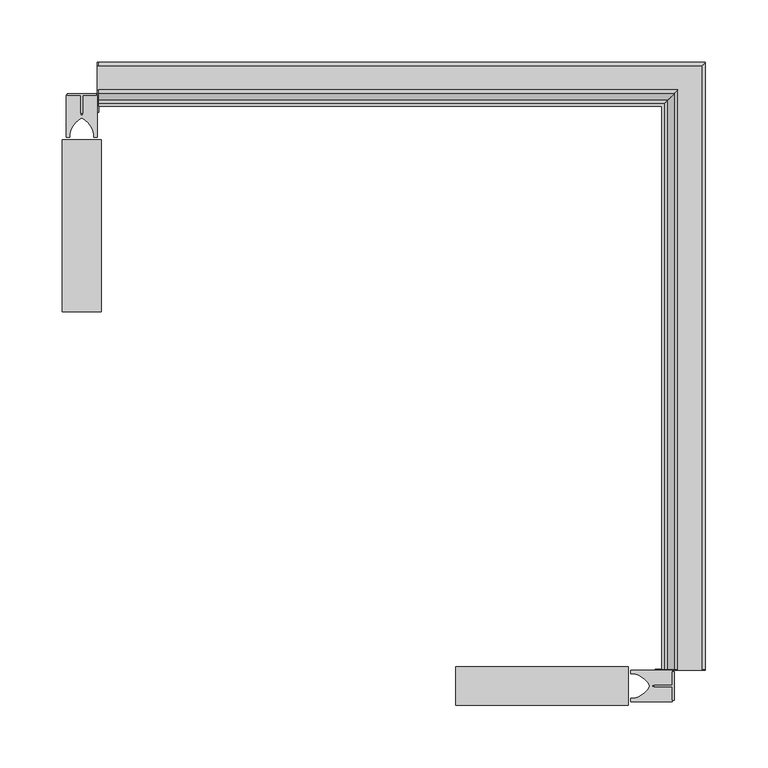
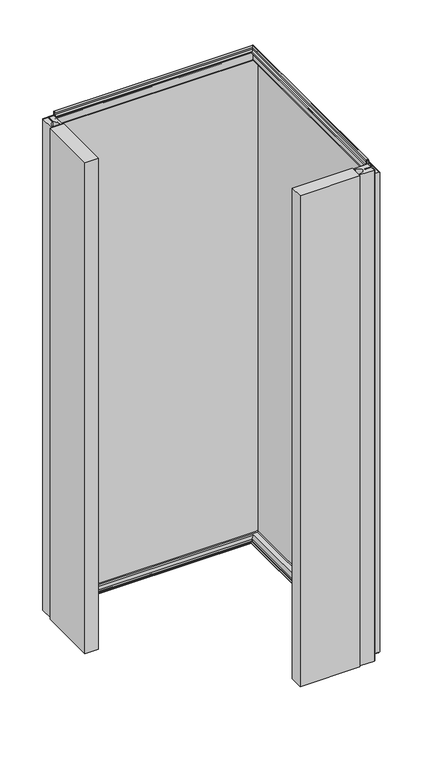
"""IFC4 building model written with IfcOpenShell, lengths in millimetres: plate geometry, Угловой модуль Fronttop : Угловой модуль Fronttop 200/1200."""

from ifc_helpers import new_model, si_unit, point, frame, frame_2d, origin, origin_with_axes, place, context, project, spatial, polyline, circle_curve, ellipse_curve, trimmed, segment, composite_curve, outline, extrude, source, transform, mapped, element, save
from ifc_brep_helpers import plane_surface, cylinder_surface, revolved_surface, advanced_brep


def plate_09dc59af(model_context):
    return source(origin(), model_context, "Body", "SolidModel", [
        extrude(outline(polyline([(225.0, -288.4948846), (225.0, -311.5051154), (223.5, -311.5051154), (223.5, -300.6502496), (209.0759655, -300.6502496), (209.0759655, -299.35), (223.5, -299.35), (223.5, -288.4948846), (225.0, -288.4948846)])), origin_with_axes(), (0.0, 0.0, 1.0), 1200.0),
        extrude(outline(composite_curve([segment(polyline([(223.5, -287.4998455), (223.5, -299.25), (207.5, -299.25), (207.5, -300.75), (223.5, -300.75), (223.5, -312.5001545), (190.0, -312.5001545), (190.0, -309.75), (192.5, -309.75)]), True, "CONTINUOUS"), segment(trimmed(circle_curve(frame_2d((189.3183984, -291.9661979)), 18.0661619), [point((192.5, -309.75))], [point((205.5, -300.0))], True, "CARTESIAN"), True, "CONTINUOUS"), segment(trimmed(circle_curve(frame_2d((189.3183984, -308.0338021)), 18.0661619), [point((205.5, -300.0))], [point((192.5, -290.25))], True, "CARTESIAN"), True, "CONTINUOUS"), segment(polyline([(192.5, -290.25), (190.0, -290.25), (190.0, -287.4998455), (223.5, -287.4998455)]), True, "CONTINUOUS")], self_intersect=False)), origin_with_axes(), (0.0, 0.0, 1.0), 1200.0),
        extrude(outline(polyline([(50.0, -315.5), (50.0, -284.5), (188.0, -284.5), (188.0, -315.5), (50.0, -315.5)])), origin_with_axes(), (0.0, 0.0, 1.0), 1200.0),
        extrude(outline(polyline([(-261.5051154, 175.0), (-238.4948846, 175.0), (-238.4948846, 173.5), (-249.3497504, 173.5), (-249.3497504, 159.0759655), (-250.65, 159.0759655), (-250.65, 173.5), (-261.5051154, 173.5), (-261.5051154, 175.0)])), origin_with_axes(), (0.0, 0.0, 1.0), 1200.0),
        extrude(outline(composite_curve([segment(polyline([(-262.5001545, 173.5), (-250.75, 173.5), (-250.75, 157.5), (-249.25, 157.5), (-249.25, 173.5), (-237.4998455, 173.5), (-237.4998455, 140.0), (-240.25, 140.0), (-240.25, 142.5)]), True, "CONTINUOUS"), segment(trimmed(circle_curve(frame_2d((-258.0338021, 139.3183984)), 18.0661619), [point((-240.25, 142.5))], [point((-250.0, 155.5))], True, "CARTESIAN"), True, "CONTINUOUS"), segment(trimmed(circle_curve(frame_2d((-241.9661979, 139.3183984)), 18.0661619), [point((-250.0, 155.5))], [point((-259.75, 142.5))], True, "CARTESIAN"), True, "CONTINUOUS"), segment(polyline([(-259.75, 142.5), (-259.75, 140.0), (-262.5001545, 140.0), (-262.5001545, 173.5)]), True, "CONTINUOUS")], self_intersect=False)), origin_with_axes(), (0.0, 0.0, 1.0), 1200.0),
        extrude(outline(polyline([(-234.5, 0.0), (-265.5, 0.0), (-265.5, 138.0), (-234.5, 138.0), (-234.5, 0.0)])), origin_with_axes(), (0.0, 0.0, 1.0), 1200.0),
        advanced_brep(
        [(-236.5, 174.0, 1208.0), (-236.5, 171.0, 1208.0), (-236.5, 171.0, 1204.0), (-236.5, 167.0, 1200.0), (-236.5, 165.0, 1200.0), (-236.5, 165.0, 1201.0), (-236.5, 167.0, 1201.0), (-236.5, 170.0, 1204.0), (-236.5, 170.0, 1208.0), (-236.5, 175.0, 1208.0), (-236.5, 175.0, 1200.0), (-236.5, 174.0, 1200.0), (-236.5, 165.0, 2.0), (215.0, 165.0, 2.0), (215.0, 165.0, 3.0), (-236.5, 165.0, 3.0), (215.0, -286.5, 3.0), (217.0, -286.5, 3.0), (217.0, 167.0, 3.0), (-236.5, 167.0, 3.0), (218.0, 168.0, 4.0), (-236.5, 168.0, 4.0), (218.0, 168.0, 8.0), (-236.5, 168.0, 8.0), (227.0, 177.0, 8.0), (-236.5, 177.0, 8.0), (227.0, 177.0, 0.0), (-236.5, 177.0, 0.0), (229.0, 179.0, -2.0), (-236.5, 179.0, -2.0), (229.0, -286.5, -2.0), (247.0, -286.5, -2.0), (247.0, 197.0, -2.0), (-236.5, 197.0, -2.0), (249.0, 199.0, 0.0), (-236.5, 199.0, 0.0), (249.0, 199.0, 1169.0), (-236.5, 199.0, 1169.0), (247.0, 197.0, 1171.0), (-236.5, 197.0, 1171.0), (247.0, -286.5, 1171.0), (228.0, -286.5, 1171.0), (228.0, 178.0, 1171.0), (-236.5, 178.0, 1171.0), (224.0, 174.0, 1175.0), (-236.5, 174.0, 1175.0), (224.0, 174.0, 1208.0), (221.0, 171.0, 1208.0), (221.0, 171.0, 1204.0), (217.0, 167.0, 1200.0), (217.0, -286.5, 1200.0), (215.0, -286.5, 1200.0), (215.0, 165.0, 1200.0), (215.0, 165.0, 1201.0), (215.0, -286.5, 1201.0), (217.0, -286.5, 1201.0), (217.0, 167.0, 1201.0), (220.0, 170.0, 1204.0), (220.0, 170.0, 1208.0), (225.0, 175.0, 1208.0), (225.0, 175.0, 1175.0), (-236.5, 175.0, 1175.0), (-237.5, 175.0, 1175.0), (-237.5, 175.0, 1200.0), (228.0, 178.0, 1172.0), (-236.5, 178.0, 1172.0), (228.0, -286.5, 1172.0), (228.0, -287.5, 1172.0), (247.0, -287.5, 1172.0), (247.0, -286.5, 1172.0), (247.0, 197.0, 1172.0), (-236.5, 197.0, 1172.0), (-237.5, 197.0, 1172.0), (-237.5, 178.0, 1172.0), (250.0, 200.0, 1169.0), (-236.5, 200.0, 1169.0), (250.0, 200.0, 0.0), (-236.5, 200.0, 0.0), (-237.5, 200.0, 0.0), (-237.5, 200.0, 1169.0), (247.0, 197.0, -3.0), (-236.5, 197.0, -3.0), (247.0, -286.5, -3.0), (247.0, -287.5, -3.0), (225.0, -287.5, -3.0), (225.0, -286.5, -3.0), (229.0, -286.5, -3.0), (229.0, 179.0, -3.0), (-236.5, 179.0, -3.0), (-236.5, 175.0, -3.0), (-237.5, 175.0, -3.0), (-237.5, 197.0, -3.0), (226.0, 176.0, 0.0), (-236.5, 176.0, 0.0), (226.0, 176.0, 8.0), (-236.5, 176.0, 8.0), (219.0, 169.0, 8.0), (-236.5, 169.0, 8.0), (219.0, 169.0, 4.0), (-236.5, 169.0, 4.0), (217.0, 167.0, 2.0), (-236.5, 167.0, 2.0), (217.0, -286.5, 2.0), (215.0, -286.5, 2.0), (221.0, -286.5, 1204.0), (221.0, -286.5, 1208.0), (224.0, -286.5, 1208.0), (224.0, -286.5, 1200.0), (225.0, -286.5, 1200.0), (225.0, -286.5, 1208.0), (220.0, -286.5, 1208.0), (220.0, -286.5, 1204.0), (218.0, -286.5, 4.0), (218.0, -286.5, 8.0), (227.0, -286.5, 8.0), (227.0, -286.5, 0.0), (249.0, -286.5, 0.0), (249.0, -286.5, 1169.0), (224.0, -286.5, 1175.0), (225.0, -287.5, 1200.0), (225.0, -287.5, 1175.0), (225.0, -286.5, 1175.0), (250.0, -286.5, 1169.0), (250.0, -287.5, 1169.0), (250.0, -287.5, 0.0), (250.0, -286.5, 0.0), (226.0, -286.5, 0.0), (226.0, -286.5, 8.0), (219.0, -286.5, 8.0), (219.0, -286.5, 4.0), (-236.5, 160.0, 1200.0), (-236.5, 160.0, 0.0), (-236.5, 175.0, 0.0), (-237.5, 175.0, 0.0), (-237.5, 160.0, 0.0), (-237.5, 160.0, 1200.0), (210.0, -286.5, 0.0), (210.0, -286.5, 1200.0), (225.0, -286.5, 0.0), (210.0, -287.5, 0.0), (225.0, -287.5, 0.0), (210.0, -287.5, 1200.0)],
        [
            (0, 1, circle_curve(frame((-236.5, 172.5, 1208.0), z_axis=(1.0, 0.0, 0.0), x_axis=(0.0, -1.0, 0.0)), 1.5)),
            (1, 2),
            (2, 3, circle_curve(frame((-236.5, 167.0, 1204.0), z_axis=(-1.0, 0.0, 0.0), x_axis=(0.0, -1.0, 0.0)), 4.0)),
            (3, 4),
            (4, 5),
            (5, 6),
            (6, 7, circle_curve(frame((-236.5, 167.0, 1204.0), z_axis=(1.0, 0.0, 0.0), x_axis=(0.0, -1.0, 0.0)), 3.0)),
            (7, 8),
            (8, 9, circle_curve(frame((-236.5, 172.5, 1208.0), z_axis=(-1.0, 0.0, 0.0), x_axis=(0.0, -1.0, 0.0)), 2.5)),
            (9, 10),
            (10, 11),
            (11, 0),
            (12, 13),
            (13, 14),
            (14, 15),
            (15, 12),
            (14, 16),
            (16, 17),
            (17, 18),
            (18, 19),
            (19, 15),
            (18, 20, ellipse_curve(frame((217.0, 167.0, 4.0), z_axis=(0.7071067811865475, -0.7071067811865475, 0.0), x_axis=(0.7071067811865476, 0.7071067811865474, 0.0)), 1.4142136, 1.0)),
            (20, 21),
            (21, 19, circle_curve(frame((-236.5, 167.0, 4.0), z_axis=(-1.0, 0.0, 0.0), x_axis=(0.0, -1.0, 0.0)), 1.0)),
            (20, 22),
            (22, 23),
            (23, 21),
            (22, 24, ellipse_curve(frame((222.5, 172.5, 8.0), z_axis=(-0.7071067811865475, 0.7071067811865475, 0.0), x_axis=(-0.7071067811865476, -0.7071067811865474, 0.0)), 6.363961, 4.5)),
            (24, 25),
            (25, 23, circle_curve(frame((-236.5, 172.5, 8.0), z_axis=(1.0, 0.0, 0.0), x_axis=(0.0, -1.0, 0.0)), 4.5)),
            (24, 26),
            (26, 27),
            (27, 25),
            (26, 28, ellipse_curve(frame((229.0, 179.0, 0.0), z_axis=(0.7071067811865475, -0.7071067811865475, 0.0), x_axis=(0.7071067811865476, 0.7071067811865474, 0.0)), 2.8284271, 2.0)),
            (28, 29),
            (29, 27, circle_curve(frame((-236.5, 179.0, 0.0), z_axis=(-1.0, 0.0, 0.0), x_axis=(0.0, -1.0, 0.0)), 2.0)),
            (28, 30),
            (30, 31),
            (31, 32),
            (32, 33),
            (33, 29),
            (32, 34, ellipse_curve(frame((247.0, 197.0, 0.0), z_axis=(0.7071067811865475, -0.7071067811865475, 0.0), x_axis=(0.7071067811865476, 0.7071067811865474, 0.0)), 2.8284271, 2.0)),
            (34, 35),
            (35, 33, circle_curve(frame((-236.5, 197.0, 0.0), z_axis=(-1.0, 0.0, 0.0), x_axis=(0.0, -1.0, 0.0)), 2.0)),
            (34, 36),
            (36, 37),
            (37, 35),
            (36, 38, ellipse_curve(frame((247.0, 197.0, 1169.0), z_axis=(0.7071067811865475, -0.7071067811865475, 0.0), x_axis=(0.7071067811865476, 0.7071067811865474, 0.0)), 2.8284271, 2.0)),
            (38, 39),
            (39, 37, circle_curve(frame((-236.5, 197.0, 1169.0), z_axis=(-1.0, 0.0, 0.0), x_axis=(0.0, -1.0, 0.0)), 2.0)),
            (38, 40),
            (40, 41),
            (41, 42),
            (42, 43),
            (43, 39),
            (42, 44, ellipse_curve(frame((228.0, 178.0, 1175.0), z_axis=(-0.7071067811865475, 0.7071067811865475, 0.0), x_axis=(-0.7071067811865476, -0.7071067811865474, 0.0)), 5.6568542, 4.0)),
            (44, 45),
            (45, 43, circle_curve(frame((-236.5, 178.0, 1175.0), z_axis=(1.0, 0.0, 0.0), x_axis=(0.0, -1.0, 0.0)), 4.0)),
            (44, 46),
            (46, 0),
            (11, 45),
            (46, 47, ellipse_curve(frame((222.5, 172.5, 1208.0), z_axis=(0.7071067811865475, -0.7071067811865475, 0.0), x_axis=(0.7071067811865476, 0.7071067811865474, 0.0)), 2.1213203, 1.5)),
            (47, 1),
            (47, 48),
            (48, 2),
            (48, 49, ellipse_curve(frame((217.0, 167.0, 1204.0), z_axis=(-0.7071067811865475, 0.7071067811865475, 0.0), x_axis=(-0.7071067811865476, -0.7071067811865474, 0.0)), 5.6568542, 4.0)),
            (49, 3),
            (49, 50),
            (50, 51),
            (51, 52),
            (52, 4),
            (4, 3),
            (52, 53),
            (53, 5),
            (53, 54),
            (54, 55),
            (55, 56),
            (56, 6),
            (56, 57, ellipse_curve(frame((217.0, 167.0, 1204.0), z_axis=(0.7071067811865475, -0.7071067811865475, 0.0), x_axis=(0.7071067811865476, 0.7071067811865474, 0.0)), 4.2426407, 3.0)),
            (57, 7),
            (57, 58),
            (58, 8),
            (58, 59, ellipse_curve(frame((222.5, 172.5, 1208.0), z_axis=(-0.7071067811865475, 0.7071067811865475, 0.0), x_axis=(-0.7071067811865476, -0.7071067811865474, 0.0)), 3.5355339, 2.5)),
            (59, 9),
            (59, 60),
            (60, 61),
            (61, 62),
            (62, 63),
            (63, 10),
            (60, 64, ellipse_curve(frame((228.0, 178.0, 1175.0), z_axis=(0.7071067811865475, -0.7071067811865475, 0.0), x_axis=(0.7071067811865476, 0.7071067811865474, 0.0)), 4.2426407, 3.0)),
            (64, 65),
            (65, 61, circle_curve(frame((-236.5, 178.0, 1175.0), z_axis=(-1.0, 0.0, 0.0), x_axis=(0.0, -1.0, 0.0)), 3.0)),
            (64, 66),
            (66, 67),
            (67, 68),
            (68, 69),
            (69, 70),
            (70, 71),
            (71, 72),
            (72, 73),
            (73, 65),
            (70, 74, ellipse_curve(frame((247.0, 197.0, 1169.0), z_axis=(-0.7071067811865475, 0.7071067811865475, 0.0), x_axis=(-0.7071067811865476, -0.7071067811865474, 0.0)), 4.2426407, 3.0)),
            (74, 75),
            (75, 71, circle_curve(frame((-236.5, 197.0, 1169.0), z_axis=(1.0, 0.0, 0.0), x_axis=(0.0, -1.0, 0.0)), 3.0)),
            (74, 76),
            (76, 77),
            (77, 78),
            (78, 79),
            (79, 75),
            (76, 80, ellipse_curve(frame((247.0, 197.0, 0.0), z_axis=(-0.7071067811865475, 0.7071067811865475, 0.0), x_axis=(-0.7071067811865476, -0.7071067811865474, 0.0)), 4.2426407, 3.0)),
            (80, 81),
            (81, 77, circle_curve(frame((-236.5, 197.0, 0.0), z_axis=(1.0, 0.0, 0.0), x_axis=(0.0, -1.0, 0.0)), 3.0)),
            (80, 82),
            (82, 83),
            (83, 84),
            (84, 85),
            (85, 86),
            (86, 87),
            (87, 88),
            (88, 89),
            (89, 90),
            (90, 91),
            (91, 81),
            (87, 92, ellipse_curve(frame((229.0, 179.0, 0.0), z_axis=(-0.7071067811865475, 0.7071067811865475, 0.0), x_axis=(-0.7071067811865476, -0.7071067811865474, 0.0)), 4.2426407, 3.0)),
            (92, 93),
            (93, 88, circle_curve(frame((-236.5, 179.0, 0.0), z_axis=(1.0, 0.0, 0.0), x_axis=(0.0, -1.0, 0.0)), 3.0)),
            (92, 94),
            (94, 95),
            (95, 93),
            (94, 96, ellipse_curve(frame((222.5, 172.5, 8.0), z_axis=(0.7071067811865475, -0.7071067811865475, 0.0), x_axis=(0.7071067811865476, 0.7071067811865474, 0.0)), 4.9497475, 3.5)),
            (96, 97),
            (97, 95, circle_curve(frame((-236.5, 172.5, 8.0), z_axis=(-1.0, 0.0, 0.0), x_axis=(0.0, -1.0, 0.0)), 3.5)),
            (96, 98),
            (98, 99),
            (99, 97),
            (98, 100, ellipse_curve(frame((217.0, 167.0, 4.0), z_axis=(-0.7071067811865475, 0.7071067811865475, 0.0), x_axis=(-0.7071067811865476, -0.7071067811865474, 0.0)), 2.8284271, 2.0)),
            (100, 101),
            (101, 99, circle_curve(frame((-236.5, 167.0, 4.0), z_axis=(1.0, 0.0, 0.0), x_axis=(0.0, -1.0, 0.0)), 2.0)),
            (12, 101),
            (100, 102),
            (102, 103),
            (103, 13),
            (54, 51),
            (51, 50),
            (50, 104, circle_curve(frame((217.0, -286.5, 1204.0), z_axis=(0.0, -1.0, 0.0), x_axis=(-1.0, 0.0, 0.0)), 4.0)),
            (104, 105),
            (105, 106, circle_curve(frame((222.5, -286.5, 1208.0), z_axis=(0.0, 1.0, 0.0), x_axis=(-1.0, 0.0, 0.0)), 1.5)),
            (106, 107),
            (107, 108),
            (108, 109),
            (109, 110, circle_curve(frame((222.5, -286.5, 1208.0), z_axis=(0.0, -1.0, 0.0), x_axis=(-1.0, 0.0, 0.0)), 2.5)),
            (110, 111),
            (111, 55, circle_curve(frame((217.0, -286.5, 1204.0), z_axis=(0.0, 1.0, 0.0), x_axis=(-1.0, 0.0, 0.0)), 3.0)),
            (103, 16),
            (17, 112, circle_curve(frame((217.0, -286.5, 4.0), z_axis=(0.0, -1.0, 0.0), x_axis=(-1.0, 0.0, 0.0)), 1.0)),
            (112, 20),
            (112, 113),
            (113, 22),
            (113, 114, circle_curve(frame((222.5, -286.5, 8.0), z_axis=(0.0, 1.0, 0.0), x_axis=(-1.0, 0.0, 0.0)), 4.5)),
            (114, 24),
            (114, 115),
            (115, 26),
            (115, 30, circle_curve(frame((229.0, -286.5, 0.0), z_axis=(0.0, -1.0, 0.0), x_axis=(-1.0, 0.0, 0.0)), 2.0)),
            (31, 116, circle_curve(frame((247.0, -286.5, 0.0), z_axis=(0.0, -1.0, 0.0), x_axis=(-1.0, 0.0, 0.0)), 2.0)),
            (116, 34),
            (116, 117),
            (117, 36),
            (117, 40, circle_curve(frame((247.0, -286.5, 1169.0), z_axis=(0.0, -1.0, 0.0), x_axis=(-1.0, 0.0, 0.0)), 2.0)),
            (41, 118, circle_curve(frame((228.0, -286.5, 1175.0), z_axis=(0.0, 1.0, 0.0), x_axis=(-1.0, 0.0, 0.0)), 4.0)),
            (118, 44),
            (118, 107),
            (106, 46),
            (105, 47),
            (104, 48),
            (111, 57),
            (110, 58),
            (109, 59),
            (108, 119),
            (119, 120),
            (120, 121),
            (121, 60),
            (121, 66, circle_curve(frame((228.0, -286.5, 1175.0), z_axis=(0.0, -1.0, 0.0), x_axis=(-1.0, 0.0, 0.0)), 3.0)),
            (69, 122, circle_curve(frame((247.0, -286.5, 1169.0), z_axis=(0.0, 1.0, 0.0), x_axis=(-1.0, 0.0, 0.0)), 3.0)),
            (122, 74),
            (122, 123),
            (123, 124),
            (124, 125),
            (125, 76),
            (125, 82, circle_curve(frame((247.0, -286.5, 0.0), z_axis=(0.0, 1.0, 0.0), x_axis=(-1.0, 0.0, 0.0)), 3.0)),
            (86, 126, circle_curve(frame((229.0, -286.5, 0.0), z_axis=(0.0, 1.0, 0.0), x_axis=(-1.0, 0.0, 0.0)), 3.0)),
            (126, 92),
            (126, 127),
            (127, 94),
            (127, 128, circle_curve(frame((222.5, -286.5, 8.0), z_axis=(0.0, -1.0, 0.0), x_axis=(-1.0, 0.0, 0.0)), 3.5)),
            (128, 96),
            (128, 129),
            (129, 98),
            (129, 102, circle_curve(frame((217.0, -286.5, 4.0), z_axis=(0.0, 1.0, 0.0), x_axis=(-1.0, 0.0, 0.0)), 2.0)),
            (130, 131),
            (131, 132),
            (132, 89),
            (11, 3),
            (4, 130),
            (62, 73, circle_curve(frame((-237.5, 178.0, 1175.0), z_axis=(1.0, 0.0, 0.0), x_axis=(0.0, 1.0, 0.0)), 3.0)),
            (72, 79, circle_curve(frame((-237.5, 197.0, 1169.0), z_axis=(-1.0, 0.0, 0.0), x_axis=(0.0, 1.0, 0.0)), 3.0)),
            (78, 91, circle_curve(frame((-237.5, 197.0, 0.0), z_axis=(-1.0, 0.0, 0.0), x_axis=(0.0, 1.0, 0.0)), 3.0)),
            (90, 133),
            (133, 134),
            (134, 135),
            (135, 63),
            (135, 130),
            (134, 131),
            (133, 132),
            (136, 137),
            (137, 51),
            (50, 107),
            (85, 138),
            (138, 136),
            (139, 140),
            (140, 84),
            (83, 124, circle_curve(frame((247.0, -287.5, 0.0), z_axis=(0.0, -1.0, 0.0), x_axis=(-1.0, 0.0, 0.0)), 3.0)),
            (123, 68, circle_curve(frame((247.0, -287.5, 1169.0), z_axis=(0.0, -1.0, 0.0), x_axis=(-1.0, 0.0, 0.0)), 3.0)),
            (67, 120, circle_curve(frame((228.0, -287.5, 1175.0), z_axis=(0.0, 1.0, 0.0), x_axis=(-1.0, 0.0, 0.0)), 3.0)),
            (119, 141),
            (141, 139),
            (138, 140),
            (139, 136),
            (137, 141),
        ],
        [
            plane_surface(frame((-236.5, 0.0, 0.0), z_axis=(-1.0, 0.0, 0.0), x_axis=(0.0, 0.0, 1.0))),
            plane_surface(frame((-236.5, 165.0, 2.0), z_axis=(0.0, -1.0, 0.0), x_axis=(1.0, 0.0, 0.0))),
            plane_surface(frame((-236.5, 165.0, 3.0), z_axis=(0.0, 0.0, 1.0), x_axis=(1.0, 0.0, 0.0))),
            revolved_surface(polyline([(218.00000002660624, 166.0, 4.0), (-236.5, 166.0, 4.0)]), (-236.5, 167.0, 4.0), (1.0, 0.0, 0.0)),
            plane_surface(frame((-236.5, 168.0, 4.0), z_axis=(0.0, -1.0, 0.0), x_axis=(1.0, 0.0, 0.0))),
            cylinder_surface(frame((-236.5, 172.5, 8.0), z_axis=(-1.0, 0.0, 0.0), x_axis=(0.0, -1.0, 0.0)), 4.5),
            plane_surface(frame((-236.5, 177.0, 8.0), z_axis=(0.0, 1.0, 0.0), x_axis=(1.0, 0.0, 0.0))),
            revolved_surface(polyline([(230.99999998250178, 177.0, 0.0), (-236.5, 177.0, 0.0)]), (-236.5, 179.0, 0.0), (1.0, 0.0, 0.0)),
            plane_surface(frame((-236.5, 179.0, -2.0), z_axis=(0.0, 0.0, 1.0), x_axis=(1.0, 0.0, 0.0))),
            revolved_surface(polyline([(249.0, 195.0, 0.0), (-236.5, 195.0, 0.0)]), (-236.5, 197.0, 0.0), (1.0, 0.0, 0.0)),
            plane_surface(frame((-236.5, 199.0, 0.0), z_axis=(0.0, -1.0, 0.0), x_axis=(1.0, 0.0, 0.0))),
            revolved_surface(polyline([(249.0, 195.0, 1169.0), (-236.5, 195.0, 1169.0)]), (-236.5, 197.0, 1169.0), (1.0, 0.0, 0.0)),
            plane_surface(frame((-236.5, 197.0, 1171.0), z_axis=(0.0, 0.0, -1.0), x_axis=(1.0, 0.0, 0.0))),
            cylinder_surface(frame((-236.5, 178.0, 1175.0), z_axis=(-1.0, 0.0, 0.0), x_axis=(0.0, -1.0, 0.0)), 4.0),
            plane_surface(frame((-236.5, 174.0, 1175.0), z_axis=(0.0, -1.0, 0.0), x_axis=(1.0, 0.0, 0.0))),
            revolved_surface(polyline([(224.0, 171.0, 1208.0), (-236.5, 171.0, 1208.0)]), (-236.5, 172.5, 1208.0), (1.0, 0.0, 0.0)),
            plane_surface(frame((-236.5, 171.0, 1208.0), z_axis=(0.0, 1.0, 0.0), x_axis=(1.0, 0.0, 0.0))),
            cylinder_surface(frame((-236.5, 167.0, 1204.0), z_axis=(-1.0, 0.0, 0.0), x_axis=(0.0, -1.0, 0.0)), 4.0),
            plane_surface(frame((-236.5, 167.0, 1200.0), z_axis=(0.0, 0.0, -1.0), x_axis=(1.0, 0.0, 0.0))),
            plane_surface(frame((-236.5, 165.0, 1200.0), z_axis=(0.0, -1.0, 0.0), x_axis=(1.0, 0.0, 0.0))),
            plane_surface(frame((-236.5, 165.0, 1201.0), z_axis=(0.0, 0.0, 1.0), x_axis=(1.0, 0.0, 0.0))),
            revolved_surface(polyline([(220.00000000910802, 164.0, 1204.0), (-236.5, 164.0, 1204.0)]), (-236.5, 167.0, 1204.0), (1.0, 0.0, 0.0)),
            plane_surface(frame((-236.5, 170.0, 1204.0), z_axis=(0.0, -1.0, 0.0), x_axis=(1.0, 0.0, 0.0))),
            cylinder_surface(frame((-236.5, 172.5, 1208.0), z_axis=(-1.0, 0.0, 0.0), x_axis=(0.0, -1.0, 0.0)), 2.5),
            plane_surface(frame((-236.5, 175.0, 1208.0), z_axis=(0.0, 1.0, 0.0), x_axis=(1.0, 0.0, 0.0))),
            revolved_surface(polyline([(231.00000000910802, 175.0, 1175.0), (-236.5, 175.0, 1175.0)]), (-236.5, 178.0, 1175.0), (1.0, 0.0, 0.0)),
            plane_surface(frame((-236.5, 178.0, 1172.0), z_axis=(0.0, 0.0, 1.0), x_axis=(1.0, 0.0, 0.0))),
            cylinder_surface(frame((-236.5, 197.0, 1169.0), z_axis=(-1.0, 0.0, 0.0), x_axis=(0.0, -1.0, 0.0)), 3.0),
            plane_surface(frame((-236.5, 200.0, 1169.0), z_axis=(0.0, 1.0, 0.0), x_axis=(1.0, 0.0, 0.0))),
            cylinder_surface(frame((-236.5, 197.0, 0.0), z_axis=(-1.0, 0.0, 0.0), x_axis=(0.0, -1.0, 0.0)), 3.0),
            plane_surface(frame((-236.5, 197.0, -3.0), z_axis=(0.0, 0.0, -1.0), x_axis=(1.0, 0.0, 0.0))),
            cylinder_surface(frame((-236.5, 179.0, 0.0), z_axis=(-1.0, 0.0, 0.0), x_axis=(0.0, -1.0, 0.0)), 3.0),
            plane_surface(frame((-236.5, 176.0, 0.0), z_axis=(0.0, -1.0, 0.0), x_axis=(1.0, 0.0, 0.0))),
            revolved_surface(polyline([(226.00000002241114, 169.0, 8.0), (-236.5, 169.0, 8.0)]), (-236.5, 172.5, 8.0), (1.0, 0.0, 0.0)),
            plane_surface(frame((-236.5, 169.0, 8.0), z_axis=(0.0, 1.0, 0.0), x_axis=(1.0, 0.0, 0.0))),
            cylinder_surface(frame((-236.5, 167.0, 4.0), z_axis=(-1.0, 0.0, 0.0), x_axis=(0.0, -1.0, 0.0)), 2.0),
            plane_surface(frame((-236.5, 167.0, 2.0), z_axis=(0.0, 0.0, -1.0), x_axis=(1.0, 0.0, 0.0))),
            plane_surface(frame((50.0, -286.5, 0.0), z_axis=(0.0, -1.0, 0.0), x_axis=(0.0, 0.0, 1.0))),
            plane_surface(frame((215.0, 165.0, 2.0), z_axis=(-1.0, 0.0, 0.0), x_axis=(0.0, -1.0, 0.0))),
            revolved_surface(polyline([(216.0, -286.5, 4.0), (216.0, 168.00000002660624, 4.0)]), (217.0, 0.0, 4.0), (0.0, -1.0, 0.0)),
            plane_surface(frame((218.0, 168.0, 4.0), z_axis=(-1.0, 0.0, 0.0), x_axis=(0.0, -1.0, 0.0))),
            cylinder_surface(frame((222.5, 0.0, 8.0), z_axis=(0.0, 1.0, 0.0), x_axis=(-1.0, 0.0, 0.0)), 4.5),
            plane_surface(frame((227.0, 177.0, 8.0), z_axis=(1.0, 0.0, 0.0), x_axis=(0.0, -1.0, 0.0))),
            revolved_surface(polyline([(227.0, -286.5, 0.0), (227.0, 180.9999999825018, 0.0)]), (229.0, 0.0, 0.0), (0.0, -1.0, 0.0)),
            revolved_surface(polyline([(245.0, -286.5, 0.0), (245.0, 199.0, 0.0)]), (247.0, 0.0, 0.0), (0.0, -1.0, 0.0)),
            plane_surface(frame((249.0, 199.0, 0.0), z_axis=(-1.0, 0.0, 0.0), x_axis=(0.0, -1.0, 0.0))),
            revolved_surface(polyline([(245.0, -286.5, 1169.0), (245.0, 199.0, 1169.0)]), (247.0, 0.0, 1169.0), (0.0, -1.0, 0.0)),
            cylinder_surface(frame((228.0, 0.0, 1175.0), z_axis=(0.0, 1.0, 0.0), x_axis=(-1.0, 0.0, 0.0)), 4.0),
            plane_surface(frame((224.0, 174.0, 1175.0), z_axis=(-1.0, 0.0, 0.0), x_axis=(0.0, -1.0, 0.0))),
            revolved_surface(polyline([(221.0, -286.5, 1208.0), (221.0, 174.0, 1208.0)]), (222.5, 0.0, 1208.0), (0.0, -1.0, 0.0)),
            plane_surface(frame((221.0, 171.0, 1208.0), z_axis=(1.0, 0.0, 0.0), x_axis=(0.0, -1.0, 0.0))),
            cylinder_surface(frame((217.0, 0.0, 1204.0), z_axis=(0.0, 1.0, 0.0), x_axis=(-1.0, 0.0, 0.0)), 4.0),
            plane_surface(frame((215.0, 165.0, 1200.0), z_axis=(-1.0, 0.0, 0.0), x_axis=(0.0, -1.0, 0.0))),
            revolved_surface(polyline([(214.0, -286.5, 1204.0), (214.0, 170.00000000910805, 1204.0)]), (217.0, 0.0, 1204.0), (0.0, -1.0, 0.0)),
            plane_surface(frame((220.0, 170.0, 1204.0), z_axis=(-1.0, 0.0, 0.0), x_axis=(0.0, -1.0, 0.0))),
            cylinder_surface(frame((222.5, 0.0, 1208.0), z_axis=(0.0, 1.0, 0.0), x_axis=(-1.0, 0.0, 0.0)), 2.5),
            plane_surface(frame((225.0, 175.0, 1208.0), z_axis=(1.0, 0.0, 0.0), x_axis=(0.0, -1.0, 0.0))),
            revolved_surface(polyline([(225.0, -286.5, 1175.0), (225.0, 181.00000000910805, 1175.0)]), (228.0, 0.0, 1175.0), (0.0, -1.0, 0.0)),
            cylinder_surface(frame((247.0, 0.0, 1169.0), z_axis=(0.0, 1.0, 0.0), x_axis=(-1.0, 0.0, 0.0)), 3.0),
            plane_surface(frame((250.0, 200.0, 1169.0), z_axis=(1.0, 0.0, 0.0), x_axis=(0.0, -1.0, 0.0))),
            cylinder_surface(frame((247.0, 0.0, 0.0), z_axis=(0.0, 1.0, 0.0), x_axis=(-1.0, 0.0, 0.0)), 3.0),
            cylinder_surface(frame((229.0, 0.0, 0.0), z_axis=(0.0, 1.0, 0.0), x_axis=(-1.0, 0.0, 0.0)), 3.0),
            plane_surface(frame((226.0, 176.0, 0.0), z_axis=(-1.0, 0.0, 0.0), x_axis=(0.0, -1.0, 0.0))),
            revolved_surface(polyline([(219.0, -286.5, 8.0), (219.0, 176.00000002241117, 8.0)]), (222.5, 0.0, 8.0), (0.0, -1.0, 0.0)),
            plane_surface(frame((219.0, 169.0, 8.0), z_axis=(1.0, 0.0, 0.0), x_axis=(0.0, -1.0, 0.0))),
            cylinder_surface(frame((217.0, 0.0, 4.0), z_axis=(0.0, 1.0, 0.0), x_axis=(-1.0, 0.0, 0.0)), 2.0),
            plane_surface(frame((-236.5, 175.0, 1200.0), z_axis=(1.0, 0.0, 0.0), x_axis=(0.0, -1.0, 0.0))),
            plane_surface(frame((-237.5, 175.0, 1200.0), z_axis=(-1.0, 0.0, 0.0), x_axis=(0.0, 1.0, 0.0))),
            plane_surface(frame((-236.5, 175.0, 1200.0), z_axis=(0.0, 0.0, 1.0), x_axis=(-1.0, 0.0, 0.0))),
            plane_surface(frame((-236.5, 160.0, 1200.0), z_axis=(0.0, -1.0, 0.0), x_axis=(-1.0, 0.0, 0.0))),
            plane_surface(frame((-236.5, 160.0, 0.0), z_axis=(0.0, 0.0, -1.0), x_axis=(-1.0, 0.0, 0.0))),
            plane_surface(frame((-236.5, 175.0, 0.0), z_axis=(0.0, -1.0, 0.0), x_axis=(-1.0, 0.0, 0.0))),
            cylinder_surface(frame((-237.5, 197.0, 0.0), z_axis=(1.0, 0.0, 0.0), x_axis=(0.0, 1.0, 0.0)), 3.0),
            cylinder_surface(frame((-237.5, 197.0, 1169.0), z_axis=(1.0, 0.0, 0.0), x_axis=(0.0, 1.0, 0.0)), 3.0),
            revolved_surface(polyline([(-237.5, 181.0, 1175.0), (-236.5, 181.0, 1175.0)]), (-237.5, 178.0, 1175.0), (-1.0, 0.0, 0.0)),
            plane_surface(frame((210.0, -286.5, 1200.0), z_axis=(0.0, 1.0, 0.0), x_axis=(0.0, 0.0, 1.0))),
            plane_surface(frame((210.0, -287.5, 1200.0), z_axis=(0.0, -1.0, 0.0), x_axis=(0.0, 0.0, -1.0))),
            plane_surface(frame((225.0, -286.5, 0.0), z_axis=(0.0, 0.0, -1.0), x_axis=(0.0, -1.0, 0.0))),
            plane_surface(frame((225.0, -286.5, -3.0), z_axis=(-1.0, 0.0, 0.0), x_axis=(0.0, -1.0, 0.0))),
            cylinder_surface(frame((247.0, -287.5, 0.0), z_axis=(0.0, 1.0, 0.0), x_axis=(-1.0, 0.0, 0.0)), 3.0),
            cylinder_surface(frame((247.0, -287.5, 1169.0), z_axis=(0.0, 1.0, 0.0), x_axis=(-1.0, 0.0, 0.0)), 3.0),
            revolved_surface(polyline([(225.0, -287.5, 1175.0), (225.0, -286.5, 1175.0)]), (228.0, -287.5, 1175.0), (0.0, -1.0, 0.0)),
            plane_surface(frame((210.0, -286.5, 1200.0), z_axis=(0.0, 0.0, 1.0), x_axis=(0.0, -1.0, 0.0))),
            plane_surface(frame((210.0, -286.5, 0.0), z_axis=(-1.0, 0.0, 0.0), x_axis=(0.0, -1.0, 0.0))),
        ],
        [
            (0, [[1, 2, 3, 4, 5, 6, 7, 8, 9, 10, 11, 12]]),
            (1, [[13, 14, 15, 16]]),
            (2, [[-15, 17, 18, 19, 20, 21]]),
            (3, [[-20, 22, 23, 24]]),
            (4, [[-23, 25, 26, 27]]),
            (5, [[-26, 28, 29, 30]]),
            (6, [[-29, 31, 32, 33]]),
            (7, [[-32, 34, 35, 36]]),
            (8, [[-35, 37, 38, 39, 40, 41]]),
            (9, [[-40, 42, 43, 44]]),
            (10, [[-43, 45, 46, 47]]),
            (11, [[-46, 48, 49, 50]]),
            (12, [[-49, 51, 52, 53, 54, 55]]),
            (13, [[-54, 56, 57, 58]]),
            (14, [[-57, 59, 60, -12, 61]]),
            (15, [[-1, -60, 62, 63]]),
            (16, [[-2, -63, 64, 65]]),
            (17, [[-3, -65, 66, 67]]),
            (18, [[-67, 68, 69, 70, 71, 72]]),
            (19, [[-5, -71, 73, 74]]),
            (20, [[-6, -74, 75, 76, 77, 78]]),
            (21, [[-7, -78, 79, 80]]),
            (22, [[-8, -80, 81, 82]]),
            (23, [[-9, -82, 83, 84]]),
            (24, [[-84, 85, 86, 87, 88, 89, -10]]),
            (25, [[-86, 90, 91, 92]]),
            (26, [[-91, 93, 94, 95, 96, 97, 98, 99, 100, 101]]),
            (27, [[-98, 102, 103, 104]]),
            (28, [[-103, 105, 106, 107, 108, 109]]),
            (29, [[-106, 110, 111, 112]]),
            (30, [[-111, 113, 114, 115, 116, 117, 118, 119, 120, 121, 122, 123]]),
            (31, [[-119, 124, 125, 126]]),
            (32, [[-125, 127, 128, 129]]),
            (33, [[-128, 130, 131, 132]]),
            (34, [[-131, 133, 134, 135]]),
            (35, [[-134, 136, 137, 138]]),
            (36, [[-13, 139, -137, 140, 141, 142]]),
            (37, [[-76, 143, 144, 145, 146, 147, 148, 149, 150, 151, 152, 153]]),
            (38, [[-14, -142, 154, -17]]),
            (39, [[-19, 155, 156, -22]]),
            (40, [[-25, -156, 157, 158]]),
            (41, [[-28, -158, 159, 160]]),
            (42, [[-31, -160, 161, 162]]),
            (43, [[-34, -162, 163, -37]]),
            (44, [[-39, 164, 165, -42]]),
            (45, [[-45, -165, 166, 167]]),
            (46, [[-48, -167, 168, -51]]),
            (47, [[-53, 169, 170, -56]]),
            (48, [[-59, -170, 171, -148, 172]]),
            (49, [[-62, -172, -147, 173]]),
            (50, [[-64, -173, -146, 174]]),
            (51, [[-66, -174, -145, -68]]),
            (52, [[-70, -143, -75, -73]]),
            (53, [[-77, -153, 175, -79]]),
            (54, [[-81, -175, -152, 176]]),
            (55, [[-83, -176, -151, 177]]),
            (56, [[-85, -177, -150, 178, 179, 180, 181]]),
            (57, [[-90, -181, 182, -93]]),
            (58, [[-97, 183, 184, -102]]),
            (59, [[-105, -184, 185, 186, 187, 188]]),
            (60, [[-110, -188, 189, -113]]),
            (61, [[-118, 190, 191, -124]]),
            (62, [[-127, -191, 192, 193]]),
            (63, [[-130, -193, 194, 195]]),
            (64, [[-133, -195, 196, 197]]),
            (65, [[-136, -197, 198, -140]]),
            (66, [[199, 200, 201, -120, -126, -129, -132, -135, -138, -139, -16, -21, -24, -27, -30, -33, -36, -41, -44, -47, -50, -55, -58, -61, 202, -72, 203]]),
            (67, [[-88, 204, -100, 205, -108, 206, -122, 207, 208, 209, 210]]),
            (68, [[-210, 211, -203, -4, -202, -11, -89]]),
            (69, [[-199, -211, -209, 212]]),
            (70, [[-200, -212, -208, 213]]),
            (71, [[-201, -213, -207, -121]]),
            (72, [[-206, -107, -112, -123]]),
            (73, [[-205, -99, -104, -109]]),
            (74, [[-204, -87, -92, -101]]),
            (75, [[214, 215, -69, 216, -171, -169, -52, -168, -166, -164, -38, -163, -161, -159, -157, -155, -18, -154, -141, -198, -196, -194, -192, -190, -117, 217, 218]]),
            (76, [[219, 220, -115, 221, -186, 222, -95, 223, -179, 224, 225]]),
            (77, [[-218, 226, -219, 227]]),
            (78, [[-217, -116, -220, -226]]),
            (79, [[-221, -114, -189, -187]]),
            (80, [[-222, -185, -183, -96]]),
            (81, [[-223, -94, -182, -180]]),
            (82, [[-224, -178, -149, -216, -144, -215, 228]]),
            (83, [[-214, -227, -225, -228]]),
        ],
    ),
    ])


if __name__ == "__main__":
    model = new_model("IFC4")
    model_context = context("Model", 3, world=origin())
    ifc_project = project(units=[si_unit("LENGTHUNIT", "METRE", prefix="MILLI")], contexts=[model_context])
    site = spatial("IfcSite", under=ifc_project)
    building = spatial("IfcBuilding", under=site)
    placement = place(None, origin())
    plate_shape = plate_09dc59af(model_context)
    element("IfcPlate", 1, ObjectType="Угловой модуль Fronttop : Угловой модуль Fronttop 200/1200", at=placement, inside=building, context=model_context, shape_type="MappedRepresentation", body=[
        mapped(plate_shape, transform((0.0, 0.0, 0.0), x_axis=(1.0, 0.0, 0.0), y_axis=(0.0, 1.0, 0.0), z_axis=(0.0, 0.0, 1.0))),
    ])
    save(model, "model.ifc")
